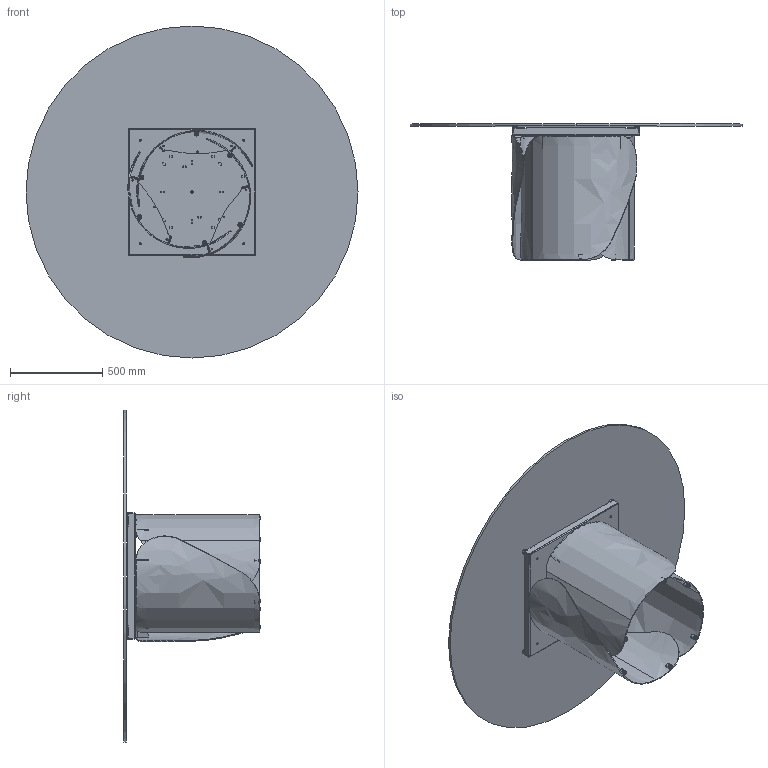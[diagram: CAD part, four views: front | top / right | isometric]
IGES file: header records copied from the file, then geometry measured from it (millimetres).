
Start section: SolidWorks IGES file using analytic representation for surfaces
Global section: file name: Y:\eforma\TECNICO\SOLIDWORKS\E-FORMA\1-TAVOLI\ONDA\02 parts\ON13G.IGS; native system: SolidWorks 2022; preprocessor: SolidWorks 2022; author: eforma.tech; date: 240806.153227; units: millimetre
Bounding box: 1800 x 738 x 1800 mm (x, y, z)
Volume: 41312893.3 mm3; surface area: 9797344.6 mm2
Topology: 62 solids, 62 shells, 1545 faces, 3651 edges, 2266 vertices
Faces by surface type: revolution 859, plane 626, bspline 60
